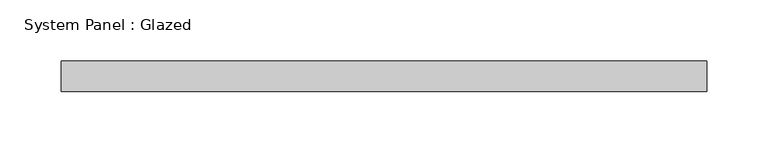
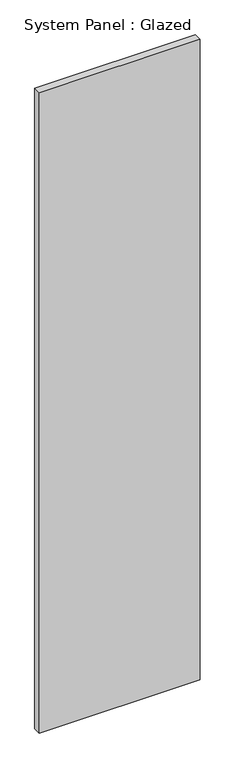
"""IFC4 building model written with IfcOpenShell, lengths in millimetres: plate geometry, System Panel : Glazed."""

from ifc_helpers import new_model, si_unit, origin, origin_with_axes, place, context, project, spatial, polyline, outline, extrude, source, transform, mapped, element, save


def system_panel_glazed_11854295(model_context):
    return source(origin(), model_context, "Body", "SweptSolid", [
        extrude(outline(polyline([(264.5000001, -49.5), (-264.5000001, -49.5), (-264.5000001, -24.5), (264.5000001, -24.5), (264.5000001, -49.5)])), origin_with_axes(), (0.0, 0.0, 1.0), 2225.0),
    ])


if __name__ == "__main__":
    model = new_model("IFC4")
    model_context = context("Model", 3, world=origin())
    ifc_project = project(units=[si_unit("LENGTHUNIT", "METRE", prefix="MILLI")], contexts=[model_context])
    site = spatial("IfcSite", under=ifc_project)
    building = spatial("IfcBuilding", under=site)
    placement = place(None, origin())
    system_panel_glazed_shape = system_panel_glazed_11854295(model_context)
    element("IfcPlate", 1, ObjectType="System Panel : Glazed", at=placement, inside=building, context=model_context, shape_type="MappedRepresentation", body=[
        mapped(system_panel_glazed_shape, transform((0.0, 0.0, 0.0), x_axis=(1.0, 0.0, 0.0), y_axis=(0.0, 1.0, 0.0), z_axis=(0.0, 0.0, 1.0))),
    ])
    save(model, "model.ifc")
